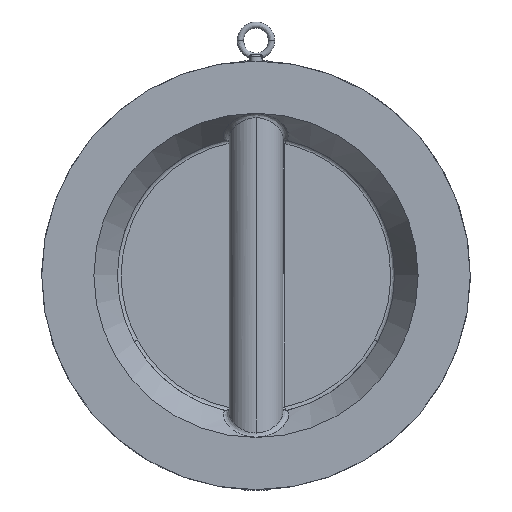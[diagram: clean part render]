
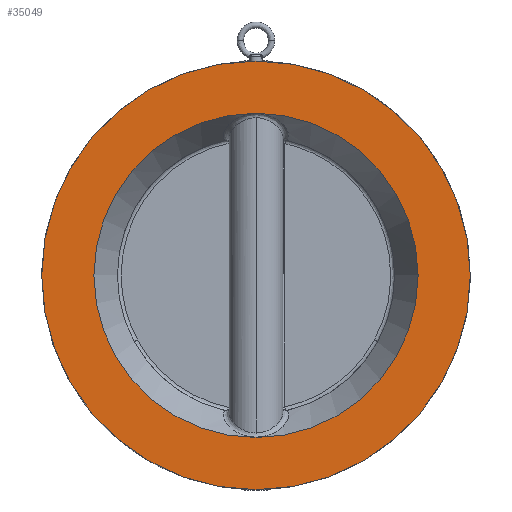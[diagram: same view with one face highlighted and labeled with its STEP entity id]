
A CAD part, front view. The second image highlights one B-rep face of the part: STEP entity #35049.
In plain terms, the highlighted planar face has unit normal (0, -1, 0).
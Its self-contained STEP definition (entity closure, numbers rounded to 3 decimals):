
#1758 = ORIENTED_EDGE ( 'NONE', *, *, #128137, .T. ) ;
#5955 = DIRECTION ( 'NONE',  ( 0., 0., -1. ) ) ;
#7009 = VERTEX_POINT ( 'NONE', #75552 ) ;
#17113 = CARTESIAN_POINT ( 'NONE',  ( 0., 0., 0. ) ) ;
#20687 = EDGE_CURVE ( 'NONE', #56756, #7009, #136105, .T. ) ;
#21950 = CARTESIAN_POINT ( 'NONE',  ( 0., 0., 0. ) ) ;
#26491 = DIRECTION ( 'NONE',  ( 0., 1., 0. ) ) ;
#30719 = DIRECTION ( 'NONE',  ( 0., -1., 0. ) ) ;
#33618 = DIRECTION ( 'NONE',  ( 0., 0., -1. ) ) ;
#35049 = ADVANCED_FACE ( 'NONE', ( #79827, #72590 ), #63761, .T. ) ;
#40009 = CARTESIAN_POINT ( 'NONE',  ( 0., 0., 0. ) ) ;
#51644 = DIRECTION ( 'NONE',  ( 0., 0., -1. ) ) ;
#53023 = AXIS2_PLACEMENT_3D ( 'NONE', #17113, #75419, #5955 ) ;
#56756 = VERTEX_POINT ( 'NONE', #141751 ) ;
#59339 = CARTESIAN_POINT ( 'NONE',  ( 0., 0., 104.011 ) ) ;
#63761 = PLANE ( 'NONE',  #53023 ) ;
#63863 = ORIENTED_EDGE ( 'NONE', *, *, #111109, .T. ) ;
#65285 = AXIS2_PLACEMENT_3D ( 'NONE', #100205, #30719, #111848 ) ;
#66650 = AXIS2_PLACEMENT_3D ( 'NONE', #95958, #26491, #107617 ) ;
#67111 = VERTEX_POINT ( 'NONE', #59339 ) ;
#67683 = EDGE_LOOP ( 'NONE', ( #106068, #63863 ) ) ;
#68502 = CIRCLE ( 'NONE', #131717, 137.5 ) ;
#72590 = FACE_OUTER_BOUND ( 'NONE', #67683, .T. ) ;
#75419 = DIRECTION ( 'NONE',  ( 0., -1., 0. ) ) ;
#75552 = CARTESIAN_POINT ( 'NONE',  ( 0., 0., 137.5 ) ) ;
#79827 = FACE_BOUND ( 'NONE', #126698, .T. ) ;
#87788 = VERTEX_POINT ( 'NONE', #94106 ) ;
#88492 = CIRCLE ( 'NONE', #66650, 104.011 ) ;
#94106 = CARTESIAN_POINT ( 'NONE',  ( 0., 0., -104.011 ) ) ;
#95958 = CARTESIAN_POINT ( 'NONE',  ( 0., 0., 0. ) ) ;
#95988 = AXIS2_PLACEMENT_3D ( 'NONE', #40009, #121107, #51644 ) ;
#97784 = CIRCLE ( 'NONE', #95988, 104.011 ) ;
#100205 = CARTESIAN_POINT ( 'NONE',  ( 0., 0., 0. ) ) ;
#103088 = DIRECTION ( 'NONE',  ( 0., -1., 0. ) ) ;
#106068 = ORIENTED_EDGE ( 'NONE', *, *, #20687, .T. ) ;
#107617 = DIRECTION ( 'NONE',  ( 0., 0., -1. ) ) ;
#111109 = EDGE_CURVE ( 'NONE', #7009, #56756, #68502, .T. ) ;
#111848 = DIRECTION ( 'NONE',  ( 0., 0., -1. ) ) ;
#111992 = EDGE_CURVE ( 'NONE', #67111, #87788, #88492, .T. ) ;
#121107 = DIRECTION ( 'NONE',  ( 0., 1., 0. ) ) ;
#126698 = EDGE_LOOP ( 'NONE', ( #1758, #135026 ) ) ;
#128137 = EDGE_CURVE ( 'NONE', #87788, #67111, #97784, .T. ) ;
#131717 = AXIS2_PLACEMENT_3D ( 'NONE', #21950, #103088, #33618 ) ;
#135026 = ORIENTED_EDGE ( 'NONE', *, *, #111992, .T. ) ;
#136105 = CIRCLE ( 'NONE', #65285, 137.5 ) ;
#141751 = CARTESIAN_POINT ( 'NONE',  ( 0., 0., -137.5 ) ) ;
